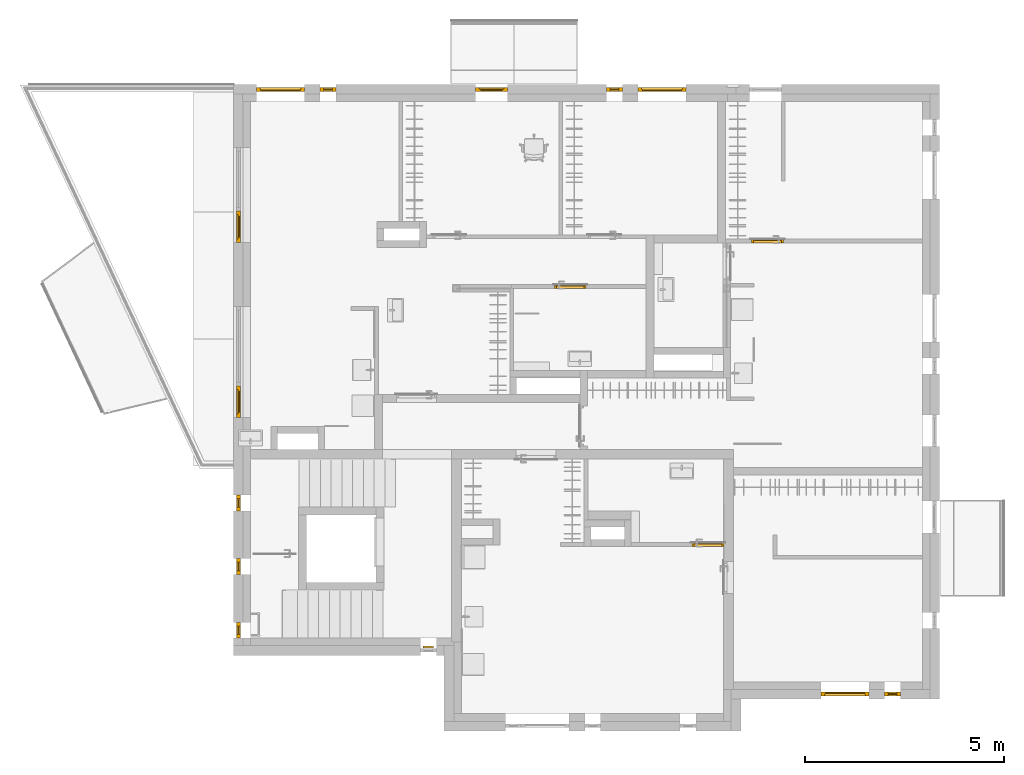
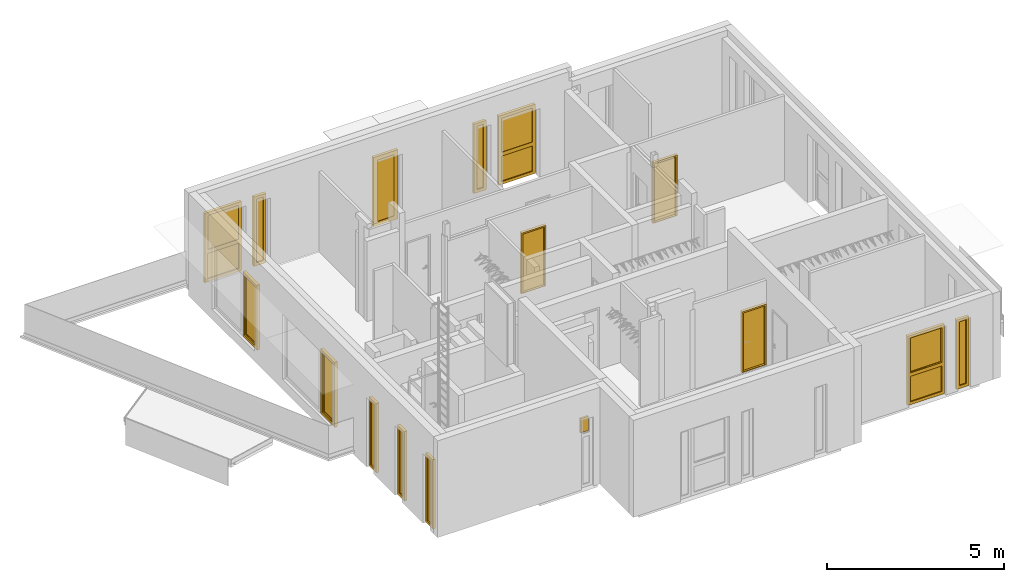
# One storey, part 11 of 42: 13 windows, 3 doors.
"""IFC2X3 building model written with IfcOpenShell, lengths in millimetres."""

from ifc_helpers import new_model, entity, si_unit, converted_unit, direction, frame, origin, place, context, subcontext, project, spatial, faceted_brep, source, transform, mapped, material, material_list, type_object, type_shapes, element, save


model = new_model("IFC2X3")

# Units and contexts
model_context = context("Model", 3, precision=0.01, world=origin(), true_north=direction((6.123233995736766e-17, 1.0)))
plan_context = context("Plan", 3, precision=0.01, world=origin(), true_north=direction((6.123233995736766e-17, 1.0)))
body_context = subcontext(model_context, "Body", "Model", "MODEL_VIEW")
ifc_project = project(units=[si_unit("LENGTHUNIT", "METRE", prefix="MILLI"), converted_unit("PLANEANGLEUNIT", "DEGREE", entity("IfcPlaneAngleMeasure", 0.017453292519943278), si_unit("PLANEANGLEUNIT", "RADIAN"), dimensions=[0, 0, 0, 0, 0, 0, 0]), si_unit("AREAUNIT", "SQUARE_METRE")], contexts=[model_context, plan_context])

# Site, building, storey
site_placement = place(None, origin())
site = spatial("IfcSite", under=ifc_project, at=site_placement, Name="Default", CompositionType="ELEMENT")
building_placement = place(site_placement, origin())
building = spatial("IfcBuilding", under=site, at=building_placement, CompositionType="ELEMENT")
storey_placement = place(building_placement, frame((0.0, 0.0, 9465.000076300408)))
storey = spatial("IfcBuildingStorey", under=building, at=storey_placement, Name="4K", CompositionType="ELEMENT", Elevation=9465.000076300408)

# Windows
ifc_material_1 = material(Name="_K. Klaas. Pakett")
ifc_material_2 = material(Name="_K. Avatäited. Raam. PVC. RAL9005")
ifc_material_3 = material(Name="_K. Avatäited. Raam. PVC. Valge")
ifc_material_list_1 = material_list([ifc_material_1, ifc_material_2, ifc_material_3])
window_style_1 = type_object("IfcWindowStyle", Name="HR_Window_Generic_Rectangle_1x2:A-13.1200x2400.P", ConstructionType="NOTDEFINED", OperationType="NOTDEFINED", ParameterTakesPrecedence=False, Sizeable=False, material=ifc_material_list_1)
shared_shape_1 = source(origin(), body_context, "Body", "Brep", [
    faceted_brep([(78.0, -154.0, 2322.0), (1122.0, -154.0, 2322.0), (1122.0, -154.0, 1101.0), (78.0, -154.0, 1101.0), (1122.0, -179.0, 2322.0), (1122.0, -179.0, 1101.0), (78.0, -179.0, 1101.0), (78.0, -179.0, 2322.0)], [[[0, 1, 2, 3]], [[2, 1, 4, 5]], [[3, 2, 5, 6]], [[0, 3, 6, 7]], [[7, 6, 5, 4]], [[1, 0, 7, 4]]]),
    faceted_brep([(1122.0, -154.0, 2322.0), (1122.0, -154.0, 1101.0), (1122.0, -179.0, 1101.0), (1122.0, -179.0, 2322.0), (1142.0, -134.0, 2342.0), (58.0, -134.0, 2342.0), (58.0, -194.0, 2342.0), (1142.0, -194.0, 2342.0), (98.0, -154.0, 2302.0), (98.0, -134.0, 2302.0), (1102.0, -134.0, 2302.0), (1102.0, -154.0, 2302.0), (98.0, -179.0, 2302.0), (98.0, -194.0, 2302.0), (98.0, -194.0, 1121.0), (98.0, -179.0, 1121.0), (1142.0, -134.0, 1081.0), (1142.0, -194.0, 1081.0), (58.0, -194.0, 1081.0), (58.0, -134.0, 1081.0), (1102.0, -194.0, 2302.0), (1102.0, -194.0, 1121.0), (98.0, -134.0, 1121.0), (1102.0, -134.0, 1121.0), (98.0, -154.0, 1121.0), (1102.0, -154.0, 1121.0), (78.0, -154.0, 1101.0), (78.0, -179.0, 1101.0), (78.0, -154.0, 2322.0), (78.0, -179.0, 2322.0), (1102.0, -179.0, 2302.0), (1102.0, -179.0, 1121.0)], [[[0, 1, 2, 3]], [[4, 5, 6, 7]], [[8, 9, 10, 11]], [[12, 13, 14, 15]], [[16, 17, 18, 19]], [[4, 7, 17, 16]], [[13, 20, 21, 14], [7, 6, 18, 17]], [[6, 5, 19, 18]], [[5, 4, 16, 19], [10, 9, 22, 23]], [[9, 8, 24, 22]], [[25, 23, 22, 24]], [[11, 10, 23, 25]], [[1, 26, 27, 2]], [[26, 28, 29, 27]], [[28, 26, 1, 0], [8, 11, 25, 24]], [[28, 0, 3, 29]], [[20, 30, 31, 21]], [[21, 31, 15, 14]], [[29, 3, 2, 27], [30, 12, 15, 31]], [[13, 12, 30, 20]]], outer=[[True], [True], [True], [True], [True], [True], [False, True], [True], [True, False], [True], [True], [True], [True], [True], [True, False], [True], [True], [True], [True, False], [True]]),
    faceted_brep([(88.0, -194.0, 989.0), (1112.0, -194.0, 989.0), (1112.0, -194.0, 108.0), (88.0, -194.0, 108.0), (1142.0, -194.0, 1019.0), (58.0, -194.0, 1019.0), (58.0, -194.0, 78.0), (1142.0, -194.0, 78.0), (88.0, -159.0, 989.0), (88.0, -159.0, 108.0), (1112.0, -159.0, 108.0), (1142.0, -159.0, 1019.0), (1142.0, -159.0, 78.0), (58.0, -159.0, 78.0), (58.0, -159.0, 1019.0), (1112.0, -159.0, 989.0)], [[[0, 1, 2, 3], [4, 5, 6, 7]], [[8, 0, 3, 9]], [[9, 3, 2, 10]], [[11, 12, 13, 14], [15, 8, 9, 10]], [[1, 15, 10, 2]], [[6, 5, 14, 13]], [[7, 6, 13, 12]], [[4, 7, 12, 11]], [[15, 1, 0, 8]], [[5, 4, 11, 14]]], outer=[[False, True], [True], [True], [True, False], [True], [True], [True], [True], [True], [True]]),
    faceted_brep([(1142.0, -159.0, 1019.0), (58.0, -159.0, 1019.0), (58.0, -159.0, 78.0), (1142.0, -159.0, 78.0), (58.0, -134.0, 1019.0), (58.0, -134.0, 78.0), (1142.0, -134.0, 78.0), (1142.0, -134.0, 1019.0)], [[[0, 1, 2, 3]], [[2, 1, 4, 5]], [[3, 2, 5, 6]], [[0, 3, 6, 7]], [[7, 6, 5, 4]], [[1, 0, 7, 4]]]),
    faceted_brep([(58.0, -134.0, 2342.0), (58.0, -134.0, 1081.0), (1142.0, -134.0, 1081.0), (1142.0, -134.0, 2342.0), (88.0, -134.0, 2312.0), (1112.0, -134.0, 2312.0), (1112.0, -134.0, 1111.0), (88.0, -134.0, 1111.0), (1142.0, -134.0, 1019.0), (1142.0, -134.0, 78.0), (1142.0, -194.0, 78.0), (1142.0, -194.0, 1019.0), (58.0, -134.0, 78.0), (58.0, -134.0, 1019.0), (58.0, -194.0, 1019.0), (58.0, -194.0, 78.0), (1112.0, -100.0, 108.0), (88.0, -100.0, 108.0), (88.0, -134.0, 108.0), (1112.0, -134.0, 108.0), (88.0, -100.0, 989.0), (88.0, -134.0, 989.0), (1112.0, -100.0, 989.0), (1112.0, -134.0, 989.0), (1200.0, -194.0, 2400.0), (0.0, -194.0, 2400.0), (0.0, -194.0, 30.0), (1200.0, -194.0, 30.0), (58.0, -194.0, 2342.0), (1142.0, -194.0, 2342.0), (1142.0, -194.0, 1081.0), (58.0, -194.0, 1081.0), (0.0, -100.0, 2400.0), (0.0, -100.0, 30.0), (0.0, -110.0, 30.0), (0.0, -110.0, 0.0), (0.0, -184.0, 0.0), (0.0, -184.0, 30.0), (1200.0, -184.0, 30.0), (1200.0, -100.0, 2400.0), (1200.0, -184.0, 0.0), (1200.0, -110.0, 0.0), (1200.0, -110.0, 30.0), (1200.0, -100.0, 30.0), (88.0, -100.0, 2312.0), (88.0, -100.0, 1111.0), (1112.0, -100.0, 1111.0), (1112.0, -100.0, 2312.0)], [[[0, 1, 2, 3], [4, 5, 6, 7]], [[8, 9, 10, 11]], [[12, 13, 14, 15]], [[9, 12, 15, 10]], [[16, 17, 18, 19]], [[17, 20, 21, 18]], [[22, 16, 19, 23]], [[11, 10, 15, 14], [24, 25, 26, 27], [28, 29, 30, 31]], [[25, 32, 33, 34, 35, 36, 37, 26]], [[37, 38, 27, 26]], [[39, 24, 27, 38, 40, 41, 42, 43]], [[17, 16, 22, 20], [32, 39, 43, 33], [44, 45, 46, 47]], [[42, 34, 33, 43]], [[34, 42, 41, 35]], [[35, 41, 40, 36]], [[38, 37, 36, 40]], [[25, 24, 39, 32]], [[44, 47, 5, 4]], [[47, 46, 6, 5]], [[45, 44, 4, 7]], [[0, 3, 29, 28]], [[3, 2, 30, 29]], [[13, 8, 11, 14]], [[1, 0, 28, 31]], [[2, 1, 31, 30]], [[46, 45, 7, 6]], [[20, 22, 23, 21]], [[9, 8, 13, 12], [19, 18, 21, 23]]], outer=[[True, False], [True], [True], [True], [True], [True], [True], [False, True, False], [True], [True], [True], [False, True, False], [True], [True], [True], [True], [True], [True], [True], [True], [True], [True], [True], [True], [True], [True], [True], [True, False]]),
])
type_shapes(window_style_1, [shared_shape_1])
for number, where in (
    (1, (150.0, 15850.0, 0.0)),
    (2, (9750.0, 15850.0, 0.0)),
):
    element("IfcWindow", number, at=place(storey_placement, frame(where)), inside=storey, type_object=window_style_1, material=ifc_material_list_1, Name="HR_Window_Generic_Rectangle_1x2:A-13.1200x2400.P", ObjectType="HR_Window_Generic_Rectangle_1x2:A-13.1200x2400.P", OverallHeight=2465.0000000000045, OverallWidth=1200.0000000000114, context=body_context, shape_type="MappedRepresentation", body=[
        mapped(shared_shape_1, transform((0.0, 0.0, 0.0), scale=1.0)),
    ])
window_1_placement = place(storey_placement, frame((15550.0, 350.0, 0.0), z_axis=(0.0, 0.0, 1.0), x_axis=(-1.0, 0.0, 0.0)))
element("IfcWindow", 3, at=window_1_placement, inside=storey, type_object=window_style_1, material=ifc_material_list_1, Name="HR_Window_Generic_Rectangle_1x2:A-13.1200x2400.P", ObjectType="HR_Window_Generic_Rectangle_1x2:A-13.1200x2400.P", OverallHeight=2465.0000000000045, OverallWidth=1200.0000000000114, context=body_context, shape_type="MappedRepresentation", body=[
    mapped(shared_shape_1, transform((0.0, 0.0, 0.0), scale=1.0)),
])
ifc_material_list_2 = material_list([ifc_material_3, ifc_material_1, ifc_material_2])
window_style_2 = type_object("IfcWindowStyle", Name="HR_Window_Generic_Rectangle_1x1:A-01.400x2400.ma", ConstructionType="NOTDEFINED", OperationType="NOTDEFINED", ParameterTakesPrecedence=False, Sizeable=False, material=ifc_material_list_2)
shared_shape_2 = source(origin(), body_context, "Body", "Brep", [
    faceted_brep([(88.0, -194.0, 2312.0), (312.0, -194.0, 2312.0), (312.0, -194.0, 108.0), (88.0, -194.0, 108.0), (342.0, -194.0, 2342.0), (58.0, -194.0, 2342.0), (58.0, -194.0, 78.0), (342.0, -194.0, 78.0), (88.0, -159.0, 2312.0), (88.0, -159.0, 108.0), (312.0, -159.0, 108.0), (342.0, -159.0, 2342.0), (342.0, -159.0, 78.0), (58.0, -159.0, 78.0), (58.0, -159.0, 2342.0), (312.0, -159.0, 2312.0)], [[[0, 1, 2, 3], [4, 5, 6, 7]], [[8, 0, 3, 9]], [[9, 3, 2, 10]], [[11, 12, 13, 14], [15, 8, 9, 10]], [[1, 15, 10, 2]], [[6, 5, 14, 13]], [[7, 6, 13, 12]], [[4, 7, 12, 11]], [[15, 1, 0, 8]], [[5, 4, 11, 14]]], outer=[[False, True], [True], [True], [True, False], [True], [True], [True], [True], [True], [True]]),
    faceted_brep([(342.0, -159.0, 2342.0), (58.0, -159.0, 2342.0), (58.0, -159.0, 78.0), (342.0, -159.0, 78.0), (58.0, -134.0, 2342.0), (58.0, -134.0, 78.0), (342.0, -134.0, 78.0), (342.0, -134.0, 2342.0)], [[[0, 1, 2, 3]], [[2, 1, 4, 5]], [[3, 2, 5, 6]], [[0, 3, 6, 7]], [[7, 6, 5, 4]], [[1, 0, 7, 4]]]),
    faceted_brep([(342.0, -134.0, 78.0), (58.0, -134.0, 78.0), (58.0, -194.0, 78.0), (342.0, -194.0, 78.0), (58.0, -134.0, 2342.0), (58.0, -194.0, 2342.0), (342.0, -134.0, 2342.0), (342.0, -194.0, 2342.0), (88.0, -100.0, 108.0), (88.0, -100.0, 2312.0), (88.0, -134.0, 2312.0), (88.0, -134.0, 108.0), (312.0, -100.0, 108.0), (312.0, -134.0, 108.0), (312.0, -100.0, 2312.0), (312.0, -134.0, 2312.0), (0.0, -100.0, 2400.0), (400.0, -100.0, 2400.0), (400.0, -100.0, 30.0), (0.0, -100.0, 30.0), (400.0, -194.0, 2400.0), (0.0, -194.0, 2400.0), (0.0, -194.0, 30.0), (400.0, -194.0, 30.0), (0.0, -110.0, 30.0), (0.0, -110.0, 0.0), (0.0, -184.0, 0.0), (0.0, -184.0, 30.0), (400.0, -184.0, 30.0), (400.0, -184.0, 0.0), (400.0, -110.0, 0.0), (400.0, -110.0, 30.0)], [[[0, 1, 2, 3]], [[1, 4, 5, 2]], [[6, 0, 3, 7]], [[8, 9, 10, 11]], [[12, 8, 11, 13]], [[14, 12, 13, 15]], [[16, 17, 18, 19], [9, 8, 12, 14]], [[20, 21, 22, 23], [7, 3, 2, 5]], [[21, 16, 19, 24, 25, 26, 27, 22]], [[27, 28, 23, 22]], [[17, 20, 23, 28, 29, 30, 31, 18]], [[31, 24, 19, 18]], [[24, 31, 30, 25]], [[25, 30, 29, 26]], [[28, 27, 26, 29]], [[4, 6, 7, 5]], [[9, 14, 15, 10]], [[21, 20, 17, 16]], [[10, 15, 13, 11], [0, 6, 4, 1]]], outer=[[True], [True], [True], [True], [True], [True], [True, False], [True, False], [True], [True], [True], [True], [True], [True], [True], [True], [True], [True], [False, True]]),
])
type_shapes(window_style_2, [shared_shape_2])
for number, where in (
    (4, (1750.0, 15850.0, 0.0)),
    (5, (8950.0, 15850.0, 0.0)),
):
    element("IfcWindow", number, at=place(storey_placement, frame(where)), inside=storey, type_object=window_style_2, material=ifc_material_list_2, Name="HR_Window_Generic_Rectangle_1x1:A-01.400x2400.ma", ObjectType="HR_Window_Generic_Rectangle_1x1:A-01.400x2400.ma", OverallHeight=2465.0000000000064, OverallWidth=400.0000000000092, context=body_context, shape_type="MappedRepresentation", body=[
        mapped(shared_shape_2, transform((0.0, 0.0, 0.0), scale=1.0)),
    ])
for number, where, z_axis, x_axis in (
    (6, (16350.0, 350.0, 0.0), (0.0, 0.0, 1.0), (-1.0, 0.0, 0.0)),
    (7, (-450.0, 1900.0, 0.0), (0.0, 0.0, 1.0), (0.0, 1.0, 0.0)),
    (8, (-450.0, 3500.0, 0.0), (0.0, 0.0, 1.0), (0.0, 1.0, 0.0)),
    (9, (-450.0, 5100.0, 0.0), (0.0, 0.0, 1.0), (0.0, 1.0, 0.0)),
):
    element("IfcWindow", number, at=place(storey_placement, frame(where, z_axis=z_axis, x_axis=x_axis)), inside=storey, type_object=window_style_2, material=ifc_material_list_2, Name="HR_Window_Generic_Rectangle_1x1:A-01.400x2400.ma", ObjectType="HR_Window_Generic_Rectangle_1x1:A-01.400x2400.ma", OverallHeight=2465.0000000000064, OverallWidth=400.0000000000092, context=body_context, shape_type="MappedRepresentation", body=[
        mapped(shared_shape_2, transform((0.0, 0.0, 0.0), scale=1.0)),
    ])
ifc_material_list_3 = material_list([ifc_material_1, ifc_material_2])
window_style_3 = type_object("IfcWindowStyle", Name="HR_Window_Generic_Rectangle_1x1:A-10.800x2400.P", ConstructionType="NOTDEFINED", OperationType="NOTDEFINED", ParameterTakesPrecedence=False, Sizeable=False, material=ifc_material_list_3)
shared_shape_3 = source(origin(), body_context, "Body", "Brep", [
    faceted_brep([(108.0, -154.0, 2292.0), (692.0, -154.0, 2292.0), (692.0, -154.0, 128.0), (108.0, -154.0, 128.0), (692.0, -179.0, 2292.0), (692.0, -179.0, 128.0), (108.0, -179.0, 128.0), (108.0, -179.0, 2292.0)], [[[0, 1, 2, 3]], [[2, 1, 4, 5]], [[3, 2, 5, 6]], [[0, 3, 6, 7]], [[7, 6, 5, 4]], [[1, 0, 7, 4]]]),
    faceted_brep([(692.0, -154.0, 2292.0), (692.0, -154.0, 128.0), (692.0, -179.0, 128.0), (692.0, -179.0, 2292.0), (742.0, -134.0, 2342.0), (58.0, -134.0, 2342.0), (58.0, -194.0, 2342.0), (742.0, -194.0, 2342.0), (128.0, -154.0, 2272.0), (128.0, -134.0, 2272.0), (672.0, -134.0, 2272.0), (672.0, -154.0, 2272.0), (128.0, -179.0, 2272.0), (128.0, -194.0, 2272.0), (128.0, -194.0, 148.0), (128.0, -179.0, 148.0), (742.0, -134.0, 78.0), (742.0, -194.0, 78.0), (58.0, -194.0, 78.0), (58.0, -134.0, 78.0), (672.0, -194.0, 2272.0), (672.0, -194.0, 148.0), (128.0, -134.0, 148.0), (672.0, -134.0, 148.0), (128.0, -154.0, 148.0), (672.0, -154.0, 148.0), (108.0, -154.0, 128.0), (108.0, -179.0, 128.0), (108.0, -154.0, 2292.0), (108.0, -179.0, 2292.0), (672.0, -179.0, 2272.0), (672.0, -179.0, 148.0)], [[[0, 1, 2, 3]], [[4, 5, 6, 7]], [[8, 9, 10, 11]], [[12, 13, 14, 15]], [[16, 17, 18, 19]], [[4, 7, 17, 16]], [[13, 20, 21, 14], [7, 6, 18, 17]], [[6, 5, 19, 18]], [[5, 4, 16, 19], [10, 9, 22, 23]], [[9, 8, 24, 22]], [[25, 23, 22, 24]], [[11, 10, 23, 25]], [[1, 26, 27, 2]], [[26, 28, 29, 27]], [[28, 26, 1, 0], [8, 11, 25, 24]], [[28, 0, 3, 29]], [[20, 30, 31, 21]], [[21, 31, 15, 14]], [[29, 3, 2, 27], [30, 12, 15, 31]], [[13, 12, 30, 20]]], outer=[[True], [True], [True], [True], [True], [True], [False, True], [True], [True, False], [True], [True], [True], [True], [True], [True, False], [True], [True], [True], [True, False], [True]]),
    faceted_brep([(742.0, -134.0, 78.0), (58.0, -134.0, 78.0), (58.0, -194.0, 78.0), (742.0, -194.0, 78.0), (58.0, -134.0, 2342.0), (58.0, -194.0, 2342.0), (742.0, -134.0, 2342.0), (742.0, -194.0, 2342.0), (88.0, -100.0, 108.0), (88.0, -100.0, 2312.0), (88.0, -134.0, 2312.0), (88.0, -134.0, 108.0), (712.0, -100.0, 108.0), (712.0, -134.0, 108.0), (712.0, -100.0, 2312.0), (712.0, -134.0, 2312.0), (0.0, -100.0, 2400.0), (800.0, -100.0, 2400.0), (800.0, -100.0, 30.0), (0.0, -100.0, 30.0), (800.0, -194.0, 2400.0), (0.0, -194.0, 2400.0), (0.0, -194.0, 30.0), (800.0, -194.0, 30.0), (0.0, -110.0, 30.0), (0.0, -110.0, 0.0), (0.0, -184.0, 0.0), (0.0, -184.0, 30.0), (800.0, -184.0, 30.0), (800.0, -184.0, 0.0), (800.0, -110.0, 0.0), (800.0, -110.0, 30.0)], [[[0, 1, 2, 3]], [[1, 4, 5, 2]], [[6, 0, 3, 7]], [[8, 9, 10, 11]], [[12, 8, 11, 13]], [[14, 12, 13, 15]], [[16, 17, 18, 19], [9, 8, 12, 14]], [[20, 21, 22, 23], [7, 3, 2, 5]], [[21, 16, 19, 24, 25, 26, 27, 22]], [[27, 28, 23, 22]], [[17, 20, 23, 28, 29, 30, 31, 18]], [[31, 24, 19, 18]], [[24, 31, 30, 25]], [[25, 30, 29, 26]], [[28, 27, 26, 29]], [[4, 6, 7, 5]], [[9, 14, 15, 10]], [[21, 20, 17, 16]], [[10, 15, 13, 11], [0, 6, 4, 1]]], outer=[[True], [True], [True], [True], [True], [True], [True, False], [True, False], [True], [True], [True], [True], [True], [True], [True], [True], [True], [True], [False, True]]),
])
type_shapes(window_style_3, [shared_shape_3])
window_2_placement = place(storey_placement, frame((5660.0, 15850.0, 0.0)))
element("IfcWindow", 10, at=window_2_placement, inside=storey, type_object=window_style_3, material=ifc_material_list_3, Name="HR_Window_Generic_Rectangle_1x1:A-10.800x2400.P", ObjectType="HR_Window_Generic_Rectangle_1x1:A-10.800x2400.P", OverallHeight=2465.0000000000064, OverallWidth=800.000000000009, context=body_context, shape_type="MappedRepresentation", body=[
    mapped(shared_shape_3, transform((0.0, 0.0, 0.0), scale=1.0)),
])
window_style_4 = type_object("IfcWindowStyle", Name="HR_Window_Generic_Rectangle_1x1:A-12.800x2250.P", ConstructionType="NOTDEFINED", OperationType="NOTDEFINED", ParameterTakesPrecedence=False, Sizeable=False, material=ifc_material_list_3)
shared_shape_4 = source(origin(), body_context, "Body", "Brep", [
    faceted_brep([(108.0, -154.0, 2142.0), (692.0, -154.0, 2142.0), (692.0, -154.0, 128.0), (108.0, -154.0, 128.0), (692.0, -179.0, 2142.0), (692.0, -179.0, 128.0), (108.0, -179.0, 128.0), (108.0, -179.0, 2142.0)], [[[0, 1, 2, 3]], [[2, 1, 4, 5]], [[3, 2, 5, 6]], [[0, 3, 6, 7]], [[7, 6, 5, 4]], [[1, 0, 7, 4]]]),
    faceted_brep([(742.0, -134.0, 78.0), (742.0, -194.0, 78.0), (58.0, -194.0, 78.0), (58.0, -134.0, 78.0), (742.0, -134.0, 2192.0), (742.0, -194.0, 2192.0), (128.0, -194.0, 2122.0), (672.0, -194.0, 2122.0), (672.0, -194.0, 148.0), (128.0, -194.0, 148.0), (58.0, -194.0, 2192.0), (58.0, -134.0, 2192.0), (672.0, -134.0, 2122.0), (128.0, -134.0, 2122.0), (128.0, -134.0, 148.0), (672.0, -134.0, 148.0), (128.0, -154.0, 2122.0), (128.0, -154.0, 148.0), (672.0, -154.0, 148.0), (672.0, -154.0, 2122.0), (692.0, -154.0, 2142.0), (692.0, -154.0, 128.0), (692.0, -179.0, 128.0), (692.0, -179.0, 2142.0), (108.0, -154.0, 128.0), (108.0, -179.0, 128.0), (108.0, -154.0, 2142.0), (108.0, -179.0, 2142.0), (672.0, -179.0, 2122.0), (672.0, -179.0, 148.0), (128.0, -179.0, 148.0), (128.0, -179.0, 2122.0)], [[[0, 1, 2, 3]], [[4, 5, 1, 0]], [[6, 7, 8, 9], [5, 10, 2, 1]], [[10, 11, 3, 2]], [[12, 13, 14, 15], [11, 4, 0, 3]], [[13, 16, 17, 14]], [[18, 15, 14, 17]], [[19, 12, 15, 18]], [[20, 21, 22, 23]], [[21, 24, 25, 22]], [[24, 26, 27, 25]], [[26, 24, 21, 20], [16, 19, 18, 17]], [[4, 11, 10, 5]], [[16, 13, 12, 19]], [[26, 20, 23, 27]], [[7, 28, 29, 8]], [[8, 29, 30, 9]], [[31, 6, 9, 30]], [[27, 23, 22, 25], [28, 31, 30, 29]], [[6, 31, 28, 7]]], outer=[[True], [True], [False, True], [True], [False, True], [True], [True], [True], [True], [True], [True], [True, False], [True], [True], [True], [True], [True], [True], [True, False], [True]]),
    faceted_brep([(742.0, -134.0, 78.0), (58.0, -134.0, 78.0), (58.0, -194.0, 78.0), (742.0, -194.0, 78.0), (58.0, -134.0, 2192.0), (58.0, -194.0, 2192.0), (742.0, -134.0, 2192.0), (742.0, -194.0, 2192.0), (88.0, -100.0, 108.0), (88.0, -100.0, 2162.0), (88.0, -134.0, 2162.0), (88.0, -134.0, 108.0), (712.0, -100.0, 108.0), (712.0, -134.0, 108.0), (712.0, -100.0, 2162.0), (712.0, -134.0, 2162.0), (0.0, -100.0, 2250.0), (800.0, -100.0, 2250.0), (800.0, -100.0, 30.0), (0.0, -100.0, 30.0), (800.0, -194.0, 2250.0), (0.0, -194.0, 2250.0), (0.0, -194.0, 30.0), (800.0, -194.0, 30.0), (0.0, -110.0, 30.0), (0.0, -110.0, 0.0), (0.0, -184.0, 0.0), (0.0, -184.0, 30.0), (800.0, -184.0, 30.0), (800.0, -184.0, 0.0), (800.0, -110.0, 0.0), (800.0, -110.0, 30.0)], [[[0, 1, 2, 3]], [[1, 4, 5, 2]], [[6, 0, 3, 7]], [[8, 9, 10, 11]], [[12, 8, 11, 13]], [[14, 12, 13, 15]], [[16, 17, 18, 19], [9, 8, 12, 14]], [[20, 21, 22, 23], [7, 3, 2, 5]], [[21, 16, 19, 24, 25, 26, 27, 22]], [[27, 28, 23, 22]], [[17, 20, 23, 28, 29, 30, 31, 18]], [[31, 24, 19, 18]], [[24, 31, 30, 25]], [[25, 30, 29, 26]], [[28, 27, 26, 29]], [[4, 6, 7, 5]], [[9, 14, 15, 10]], [[21, 20, 17, 16]], [[10, 15, 13, 11], [0, 6, 4, 1]]], outer=[[True], [True], [True], [True], [True], [True], [True, False], [True, False], [True], [True], [True], [True], [True], [True], [True], [True], [True], [True], [False, True]]),
])
type_shapes(window_style_4, [shared_shape_4])
for number, where, z_axis, x_axis in (
    (11, (-450.0, 7450.0, 150.0), (0.0, 0.0, 1.0), (0.0, 1.0, 0.0)),
    (12, (-450.0, 11850.0, 150.0), (0.0, 0.0, 1.0), (0.0, 1.0, 0.0)),
):
    element("IfcWindow", number, at=place(storey_placement, frame(where, z_axis=z_axis, x_axis=x_axis)), inside=storey, type_object=window_style_4, material=ifc_material_list_3, Name="HR_Window_Generic_Rectangle_1x1:A-12.800x2250.P", ObjectType="HR_Window_Generic_Rectangle_1x1:A-12.800x2250.P", OverallHeight=2315.000000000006, OverallWidth=800.000000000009, context=body_context, shape_type="MappedRepresentation", body=[
        mapped(shared_shape_4, transform((0.0, 0.0, 0.0), scale=1.0)),
    ])
window_style_5 = type_object("IfcWindowStyle", Name="Infill_Glazing_W-ALU_Rectangle_Triple:Fixed. Tumm", ConstructionType="NOTDEFINED", OperationType="NOTDEFINED", ParameterTakesPrecedence=False, Sizeable=False, material=ifc_material_2)
shared_shape_5 = source(origin(), body_context, "Body", "Brep", [
    faceted_brep([(-130.50000000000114, -90.0, 469.49999999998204), (-130.50000000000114, -90.0, -18.499999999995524), (130.4999999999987, -90.0, -18.499999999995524), (130.4999999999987, -90.0, 469.49999999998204), (-130.50000000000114, -50.0, 469.49999999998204), (130.4999999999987, -50.0, 469.49999999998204), (130.4999999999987, -50.0, -18.499999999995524), (-130.50000000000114, -50.0, -18.499999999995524)], [[[0, 1, 2, 3]], [[4, 5, 6, 7]], [[1, 0, 4, 7]], [[2, 1, 7, 6]], [[3, 2, 6, 5]], [[0, 3, 5, 4]]]),
    faceted_brep([(130.5000000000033, -90.0, -18.499999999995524), (130.5000000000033, -112.0, -18.499999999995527), (-130.49999999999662, -112.0, -18.499999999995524), (-130.49999999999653, -90.0, -18.49999999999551), (-130.49999999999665, -112.0, 469.49999999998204), (-130.4999999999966, -90.0, 469.4999999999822), (130.50000000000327, -112.0, 469.49999999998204), (-117.89488223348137, -112.0, 456.89488223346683), (117.894882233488, -112.0, 456.89488223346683), (117.89488223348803, -112.0, -5.894882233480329), (-117.89488223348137, -112.0, -5.894882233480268), (-112.0, -90.0, 0.0), (112.0, -90.0, 0.0), (112.0, -90.0, 451.0), (-112.0, -90.0, 451.0), (130.5000000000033, -90.0, 469.49999999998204)], [[[0, 1, 2, 3]], [[3, 2, 4, 5]], [[2, 1, 6, 4], [7, 8, 9, 10]], [[11, 12, 13, 14], [5, 15, 0, 3]], [[9, 12, 11, 10]], [[10, 11, 14, 7]], [[15, 6, 1, 0]], [[8, 13, 12, 9]], [[5, 4, 6, 15]], [[7, 14, 13, 8]]], outer=[[True], [True], [True, False], [False, True], [True], [True], [True], [True], [True], [True]]),
])
type_shapes(window_style_5, [shared_shape_5])
window_3_placement = place(storey_placement, frame((4470.0, 1597.0, 1861.0), z_axis=(0.0, 0.0, 1.0), x_axis=(-1.0, 0.0, 0.0)))
element("IfcWindow", 13, at=window_3_placement, inside=storey, type_object=window_style_5, material=ifc_material_2, Name="Infill_Glazing_W-ALU_Rectangle_Triple:Fixed. Tumm", ObjectType="Infill_Glazing_W-ALU_Rectangle_Triple:Fixed. Tumm", OverallHeight=111.99999999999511, OverallWidth=261.00000000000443, context=body_context, shape_type="MappedRepresentation", body=[
    mapped(shared_shape_5, transform((0.0, 0.0, 0.0), scale=1.0)),
])

# Doors
ifc_material_4 = material(Name="_K. Puit. Peitsitud ja lakitud")
door_style_1 = type_object("IfcDoorStyle", Name="HR_Generic_Hinged_Single:Default. Manteluks lävepakuga. 800 x 2100 mm. Right", ConstructionType="NOTDEFINED", OperationType="NOTDEFINED", ParameterTakesPrecedence=False, Sizeable=False, material=ifc_material_4)
shared_shape_6 = source(origin(), body_context, "Body", "Brep", [
    faceted_brep([(765.0, 1092.0, 20.0), (35.0, 1092.0, 20.0), (35.0, 1062.0, 20.0), (50.0, 1062.0, 20.0), (50.0, 1000.0, 20.0), (750.0, 1000.0, 20.0), (750.0, 1062.0, 20.0), (765.0, 1062.0, 20.0), (35.0, 1092.0, 0.0), (765.0, 1092.0, 0.0), (765.0, 1062.0, 0.0), (750.0, 1062.0, 0.0), (750.0, 1000.0, 0.0), (50.0, 1000.0, 0.0), (50.0, 1062.0, 0.0), (35.0, 1062.0, 0.0)], [[[0, 1, 2, 3, 4, 5, 6, 7]], [[8, 9, 10, 11, 12, 13, 14, 15]], [[1, 0, 9, 8]], [[5, 4, 13, 12]], [[2, 1, 8, 15]], [[0, 7, 10, 9]], [[3, 14, 13, 4]], [[14, 3, 2, 15]], [[6, 11, 10, 7]], [[11, 6, 5, 12]]]),
    faceted_brep([(37.0, 1062.0, 2060.0), (37.0, 1062.0, 25.0), (763.0, 1062.0, 25.0), (763.0, 1062.0, 2060.0), (27.0, 1102.0, 25.0), (27.0, 1102.0, 2070.0), (773.0, 1102.0, 2070.0), (773.0, 1102.0, 25.0), (37.0, 1092.0, 2060.0), (37.0, 1092.0, 25.0), (27.0, 1092.0, 25.0), (773.0, 1092.0, 25.0), (763.0, 1092.0, 25.0), (763.0, 1092.0, 2060.0), (27.0, 1092.0, 2070.0), (773.0, 1092.0, 2070.0)], [[[0, 1, 2, 3]], [[4, 5, 6, 7]], [[1, 0, 8, 9]], [[2, 1, 9, 10, 4, 7, 11, 12]], [[3, 2, 12, 13]], [[0, 3, 13, 8]], [[14, 10, 9, 8, 13, 12, 11, 15]], [[6, 5, 14, 15]], [[7, 6, 15, 11]], [[5, 4, 10, 14]]]),
    faceted_brep([(800.0, 1000.0, 0.0), (750.0, 1000.0, 0.0), (750.0, 1062.0, 0.0), (765.0, 1062.0, 0.0), (765.0, 1092.0, 0.0), (800.0, 1092.0, 0.0), (800.0, 1000.0, 2100.0), (0.0, 1000.0, 2100.0), (0.0, 1000.0, 0.0), (50.0, 1000.0, 0.0), (50.0, 1000.0, 2050.0), (750.0, 1000.0, 2050.0), (750.0, 1062.0, 2050.0), (35.0, 1062.0, 2065.0), (765.0, 1062.0, 2065.0), (50.0, 1062.0, 2050.0), (50.0, 1062.0, 0.0), (35.0, 1062.0, 0.0), (765.0, 1092.0, 2065.0), (0.0, 1092.0, 0.0), (0.0, 1092.0, 2100.0), (800.0, 1092.0, 2100.0), (35.0, 1092.0, 2065.0), (35.0, 1092.0, 0.0)], [[[0, 1, 2, 3, 4, 5]], [[1, 0, 6, 7, 8, 9, 10, 11]], [[1, 11, 12, 2]], [[13, 14, 3, 2, 12, 15, 16, 17]], [[3, 14, 18, 4]], [[19, 20, 21, 5, 4, 18, 22, 23]], [[0, 5, 21, 6]], [[8, 19, 23, 17, 16, 9]], [[19, 8, 7, 20]], [[13, 17, 23, 22]], [[10, 9, 16, 15]], [[7, 6, 21, 20]], [[11, 10, 15, 12]], [[14, 13, 22, 18]]]),
])
type_shapes(door_style_1, [shared_shape_6])
door_1_placement = place(storey_placement, frame((12600.0, 10846.0, 0.0)))
element("IfcDoor", 14, at=door_1_placement, inside=storey, type_object=door_style_1, material=ifc_material_4, Name="HR_Generic_Hinged_Single:Default. Manteluks lävepakuga. 800 x 2100 mm. Right", ObjectType="HR_Generic_Hinged_Single:Default. Manteluks lävepakuga. 800 x 2100 mm. Right", OverallHeight=2130.000000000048, OverallWidth=860.0000000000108, context=body_context, shape_type="MappedRepresentation", body=[
    mapped(shared_shape_6, transform((0.0, 0.0, 0.0), scale=1.0)),
])
door_style_2 = type_object("IfcDoorStyle", Name="HR_Generic_Hinged_Single:Default. Manteluks lävepakuga. 800 x 2100 mm. Left", ConstructionType="NOTDEFINED", OperationType="NOTDEFINED", ParameterTakesPrecedence=False, Sizeable=False, material=ifc_material_4)
shared_shape_7 = source(origin(), body_context, "Body", "Brep", [
    faceted_brep([(765.0, -1000.0, 20.0), (35.0, -1000.0, 20.0), (35.0, -1030.0, 20.0), (50.0, -1030.0, 20.0), (50.0, -1092.0, 20.0), (750.0, -1092.0, 20.0), (750.0, -1030.0, 20.0), (765.0, -1030.0, 20.0), (35.0, -1000.0, 0.0), (765.0, -1000.0, 0.0), (765.0, -1030.0, 0.0), (750.0, -1030.0, 0.0), (750.0, -1092.0, 0.0), (50.0, -1092.0, 0.0), (50.0, -1030.0, 0.0), (35.0, -1030.0, 0.0)], [[[0, 1, 2, 3, 4, 5, 6, 7]], [[8, 9, 10, 11, 12, 13, 14, 15]], [[1, 0, 9, 8]], [[5, 4, 13, 12]], [[2, 1, 8, 15]], [[0, 7, 10, 9]], [[3, 14, 13, 4]], [[14, 3, 2, 15]], [[6, 11, 10, 7]], [[11, 6, 5, 12]]]),
    faceted_brep([(37.0, -1030.0, 2060.0), (37.0, -1030.0, 25.0), (763.0, -1030.0, 25.0), (763.0, -1030.0, 2060.0), (27.0, -990.0, 25.0), (27.0, -990.0, 2070.0), (773.0, -990.0, 2070.0), (773.0, -990.0, 25.0), (37.0, -1000.0, 2060.0), (37.0, -1000.0, 25.0), (27.0, -1000.0, 25.0), (773.0, -1000.0, 25.0), (763.0, -1000.0, 25.0), (763.0, -1000.0, 2060.0), (27.0, -1000.0, 2070.0), (773.0, -1000.0, 2070.0)], [[[0, 1, 2, 3]], [[4, 5, 6, 7]], [[1, 0, 8, 9]], [[2, 1, 9, 10, 4, 7, 11, 12]], [[3, 2, 12, 13]], [[0, 3, 13, 8]], [[14, 10, 9, 8, 13, 12, 11, 15]], [[6, 5, 14, 15]], [[7, 6, 15, 11]], [[5, 4, 10, 14]]]),
    faceted_brep([(800.0, -1092.0, 0.0), (750.0, -1092.0, 0.0), (750.0, -1030.0, 0.0), (765.0, -1030.0, 0.0), (765.0, -1000.0, 0.0), (800.0, -1000.0, 0.0), (800.0, -1092.0, 2100.0), (0.0, -1092.0, 2100.0), (0.0, -1092.0, 0.0), (50.0, -1092.0, 0.0), (50.0, -1092.0, 2050.0), (750.0, -1092.0, 2050.0), (750.0, -1030.0, 2050.0), (35.0, -1030.0, 2065.0), (765.0, -1030.0, 2065.0), (50.0, -1030.0, 2050.0), (50.0, -1030.0, 0.0), (35.0, -1030.0, 0.0), (765.0, -1000.0, 2065.0), (0.0, -1000.0, 0.0), (0.0, -1000.0, 2100.0), (800.0, -1000.0, 2100.0), (35.0, -1000.0, 2065.0), (35.0, -1000.0, 0.0)], [[[0, 1, 2, 3, 4, 5]], [[1, 0, 6, 7, 8, 9, 10, 11]], [[1, 11, 12, 2]], [[13, 14, 3, 2, 12, 15, 16, 17]], [[3, 14, 18, 4]], [[19, 20, 21, 5, 4, 18, 22, 23]], [[0, 5, 21, 6]], [[8, 19, 23, 17, 16, 9]], [[19, 8, 7, 20]], [[13, 17, 23, 22]], [[10, 9, 16, 15]], [[7, 6, 21, 20]], [[11, 10, 15, 12]], [[14, 13, 22, 18]]]),
])
type_shapes(door_style_2, [shared_shape_7])
door_2_placement = place(storey_placement, frame((7640.0, 11793.0, 0.0)))
element("IfcDoor", 15, at=door_2_placement, inside=storey, type_object=door_style_2, material=ifc_material_4, Name="HR_Generic_Hinged_Single:Default. Manteluks lävepakuga. 800 x 2100 mm. Left", ObjectType="HR_Generic_Hinged_Single:Default. Manteluks lävepakuga. 800 x 2100 mm. Left", OverallHeight=2130.000000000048, OverallWidth=860.0000000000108, context=body_context, shape_type="MappedRepresentation", body=[
    mapped(shared_shape_7, transform((0.0, 0.0, 0.0), scale=1.0)),
])
door_style_3 = type_object("IfcDoorStyle", Name="HR_Generic_Hinged_Single:Default. Manteluks lävepakuga. 800 x 2100 mm. Left", ConstructionType="NOTDEFINED", OperationType="NOTDEFINED", ParameterTakesPrecedence=False, Sizeable=False, material=ifc_material_4)
shared_shape_8 = source(origin(), body_context, "Body", "Brep", [
    faceted_brep([(765.0, 1092.0, 20.0), (35.0, 1092.0, 20.0), (35.0, 1062.0, 20.0), (50.0, 1062.0, 20.0), (50.0, 1000.0, 20.0), (750.0, 1000.0, 20.0), (750.0, 1062.0, 20.0), (765.0, 1062.0, 20.0), (35.0, 1092.0, 0.0), (765.0, 1092.0, 0.0), (765.0, 1062.0, 0.0), (750.0, 1062.0, 0.0), (750.0, 1000.0, 0.0), (50.0, 1000.0, 0.0), (50.0, 1062.0, 0.0), (35.0, 1062.0, 0.0)], [[[0, 1, 2, 3, 4, 5, 6, 7]], [[8, 9, 10, 11, 12, 13, 14, 15]], [[1, 0, 9, 8]], [[5, 4, 13, 12]], [[2, 1, 8, 15]], [[0, 7, 10, 9]], [[3, 14, 13, 4]], [[14, 3, 2, 15]], [[6, 11, 10, 7]], [[11, 6, 5, 12]]]),
    faceted_brep([(37.0, 1062.0, 2060.0), (37.0, 1062.0, 25.0), (763.0, 1062.0, 25.0), (763.0, 1062.0, 2060.0), (27.0, 1102.0, 25.0), (27.0, 1102.0, 2070.0), (773.0, 1102.0, 2070.0), (773.0, 1102.0, 25.0), (37.0, 1092.0, 2060.0), (37.0, 1092.0, 25.0), (27.0, 1092.0, 25.0), (773.0, 1092.0, 25.0), (763.0, 1092.0, 25.0), (763.0, 1092.0, 2060.0), (27.0, 1092.0, 2070.0), (773.0, 1092.0, 2070.0)], [[[0, 1, 2, 3]], [[4, 5, 6, 7]], [[1, 0, 8, 9]], [[2, 1, 9, 10, 4, 7, 11, 12]], [[3, 2, 12, 13]], [[0, 3, 13, 8]], [[14, 10, 9, 8, 13, 12, 11, 15]], [[6, 5, 14, 15]], [[7, 6, 15, 11]], [[5, 4, 10, 14]]]),
    faceted_brep([(800.0, 1000.0, 0.0), (750.0, 1000.0, 0.0), (750.0, 1062.0, 0.0), (765.0, 1062.0, 0.0), (765.0, 1092.0, 0.0), (800.0, 1092.0, 0.0), (800.0, 1000.0, 2100.0), (0.0, 1000.0, 2100.0), (0.0, 1000.0, 0.0), (50.0, 1000.0, 0.0), (50.0, 1000.0, 2050.0), (750.0, 1000.0, 2050.0), (750.0, 1062.0, 2050.0), (35.0, 1062.0, 2065.0), (765.0, 1062.0, 2065.0), (50.0, 1062.0, 2050.0), (50.0, 1062.0, 0.0), (35.0, 1062.0, 0.0), (765.0, 1092.0, 2065.0), (0.0, 1092.0, 0.0), (0.0, 1092.0, 2100.0), (800.0, 1092.0, 2100.0), (35.0, 1092.0, 2065.0), (35.0, 1092.0, 0.0)], [[[0, 1, 2, 3, 4, 5]], [[1, 0, 6, 7, 8, 9, 10, 11]], [[1, 11, 12, 2]], [[13, 14, 3, 2, 12, 15, 16, 17]], [[3, 14, 18, 4]], [[19, 20, 21, 5, 4, 18, 22, 23]], [[0, 5, 21, 6]], [[8, 19, 23, 17, 16, 9]], [[19, 8, 7, 20]], [[13, 17, 23, 22]], [[10, 9, 16, 15]], [[7, 6, 21, 20]], [[11, 10, 15, 12]], [[14, 13, 22, 18]]]),
])
type_shapes(door_style_3, [shared_shape_8])
door_3_placement = place(storey_placement, frame((11104.993534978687, 3210.0, 0.0)))
element("IfcDoor", 16, at=door_3_placement, inside=storey, type_object=door_style_3, material=ifc_material_4, Name="HR_Generic_Hinged_Single:Default. Manteluks lävepakuga. 800 x 2100 mm. Left", ObjectType="HR_Generic_Hinged_Single:Default. Manteluks lävepakuga. 800 x 2100 mm. Left", OverallHeight=2130.000000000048, OverallWidth=860.0000000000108, context=body_context, shape_type="MappedRepresentation", body=[
    mapped(shared_shape_8, transform((0.0, 0.0, 0.0), scale=1.0)),
])

save(model, "model.ifc")
